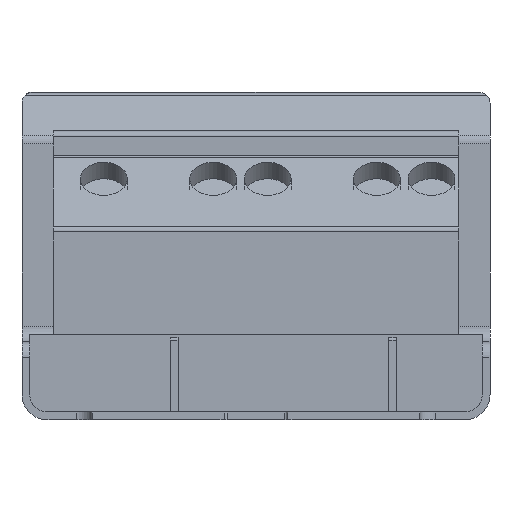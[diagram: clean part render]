
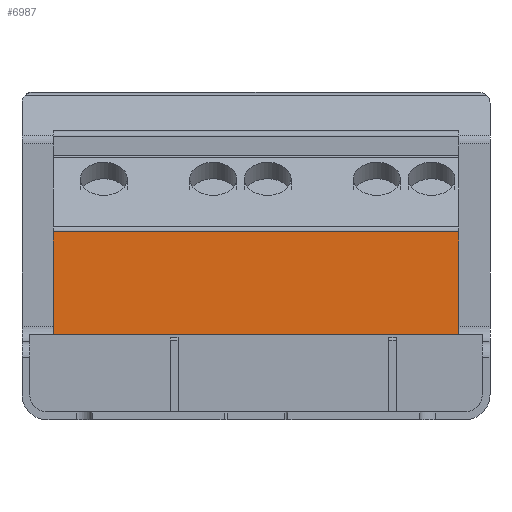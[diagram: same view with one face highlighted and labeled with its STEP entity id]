
A CAD part, front view. The second image highlights one B-rep face of the part: STEP entity #6987.
In plain terms, the highlighted planar face has unit normal (0, -1, 0).
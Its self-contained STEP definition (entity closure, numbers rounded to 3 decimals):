
#2744=DIRECTION('',(1.,0.,0.));
#2745=VECTOR('',#2744,26.);
#2746=CARTESIAN_POINT('',(-13.,-164.3,5.45));
#2747=LINE('',#2746,#2745);
#2779=DIRECTION('',(0.,0.,-1.));
#2780=VECTOR('',#2779,6.593);
#2781=CARTESIAN_POINT('',(13.,-164.3,12.043));
#2782=LINE('',#2781,#2780);
#3081=DIRECTION('',(-1.,0.,0.));
#3082=VECTOR('',#3081,26.);
#3083=CARTESIAN_POINT('',(13.,-164.3,12.043));
#3084=LINE('',#3083,#3082);
#3205=DIRECTION('',(0.,0.,-1.));
#3206=VECTOR('',#3205,6.593);
#3207=CARTESIAN_POINT('',(-13.,-164.3,12.043));
#3208=LINE('',#3207,#3206);
#4417=CARTESIAN_POINT('',(13.,-164.3,12.043));
#4418=CARTESIAN_POINT('',(13.,-164.3,5.45));
#4419=VERTEX_POINT('',#4417);
#4420=VERTEX_POINT('',#4418);
#4425=CARTESIAN_POINT('',(-13.,-164.3,12.043));
#4426=CARTESIAN_POINT('',(-13.,-164.3,5.45));
#4427=VERTEX_POINT('',#4425);
#4428=VERTEX_POINT('',#4426);
#6975=CARTESIAN_POINT('',(13.,-164.3,12.043));
#6976=DIRECTION('',(0.,-1.,0.));
#6977=DIRECTION('',(0.,0.,-1.));
#6978=AXIS2_PLACEMENT_3D('',#6975,#6976,#6977);
#6979=PLANE('',#6978);
#6980=ORIENTED_EDGE('',*,*,#6686,.T.);
#6981=ORIENTED_EDGE('',*,*,#6661,.F.);
#6983=ORIENTED_EDGE('',*,*,#6982,.F.);
#6984=ORIENTED_EDGE('',*,*,#6967,.F.);
#6985=EDGE_LOOP('',(#6980,#6981,#6983,#6984));
#6986=FACE_OUTER_BOUND('',#6985,.F.);
#6661=EDGE_CURVE('',#4428,#4420,#2747,.T.);
#6686=EDGE_CURVE('',#4419,#4420,#2782,.T.);
#6967=EDGE_CURVE('',#4419,#4427,#3084,.T.);
#6982=EDGE_CURVE('',#4427,#4428,#3208,.T.);
#6987=ADVANCED_FACE('',(#6986),#6979,.T.);
